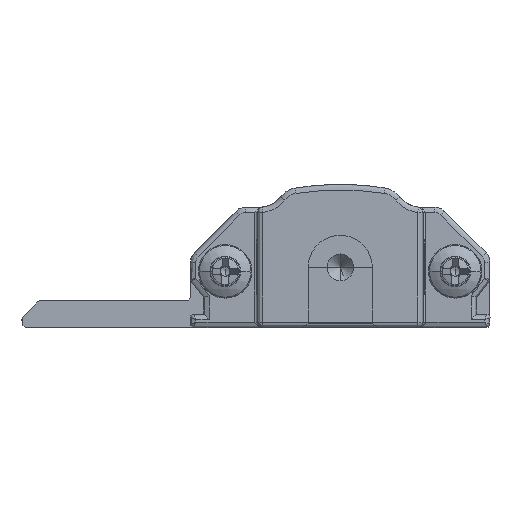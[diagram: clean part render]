
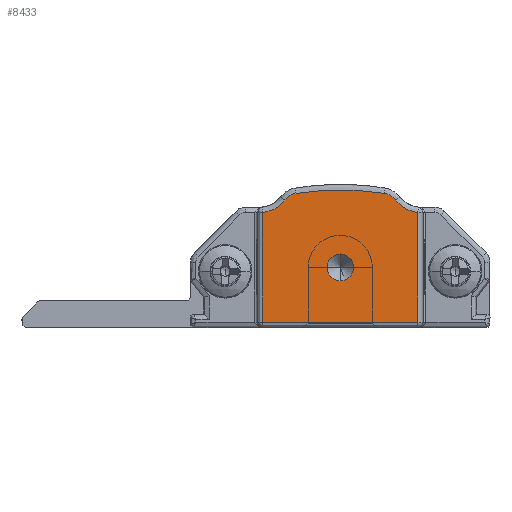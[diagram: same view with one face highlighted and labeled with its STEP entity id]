
A CAD part, front view. The second image highlights one B-rep face of the part: STEP entity #8433.
In plain terms, the highlighted planar face has unit normal (0, -1, 0).
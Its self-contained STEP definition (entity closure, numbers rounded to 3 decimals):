
#357 = AXIS2_PLACEMENT_3D ( 'NONE', #27700, #5956, #15453 ) ;
#891 = DIRECTION ( 'NONE',  ( 0., -1., 0. ) ) ;
#1274 = ORIENTED_EDGE ( 'NONE', *, *, #5611, .T. ) ;
#1951 = ORIENTED_EDGE ( 'NONE', *, *, #9960, .T. ) ;
#2082 = CARTESIAN_POINT ( 'NONE',  ( 17., -15., 0.4 ) ) ;
#2147 = ORIENTED_EDGE ( 'NONE', *, *, #29866, .T. ) ;
#2299 = VERTEX_POINT ( 'NONE', #26093 ) ;
#2312 = ORIENTED_EDGE ( 'NONE', *, *, #2401, .T. ) ;
#2401 = EDGE_CURVE ( 'NONE', #8843, #10778, #17169, .T. ) ;
#2630 = CARTESIAN_POINT ( 'NONE',  ( 17., -15., 8.612 ) ) ;
#2657 = CIRCLE ( 'NONE', #3656, 1. ) ;
#3656 = AXIS2_PLACEMENT_3D ( 'NONE', #18105, #891, #10528 ) ;
#3772 = VECTOR ( 'NONE', #26977, 1000. ) ;
#3838 = AXIS2_PLACEMENT_3D ( 'NONE', #22872, #8832, #6450 ) ;
#3845 = EDGE_LOOP ( 'NONE', ( #2312, #1274, #9513, #22999, #2147, #28946, #1951, #22047 ) ) ;
#4135 = VERTEX_POINT ( 'NONE', #14292 ) ;
#4183 = CARTESIAN_POINT ( 'NONE',  ( 5.4, -15., 0.4 ) ) ;
#4322 = EDGE_LOOP ( 'NONE', ( #29389, #19383 ) ) ;
#5347 = CIRCLE ( 'NONE', #3838, 1.3 ) ;
#5450 = LINE ( 'NONE', #19854, #23386 ) ;
#5554 = DIRECTION ( 'NONE',  ( 0., 1., 0. ) ) ;
#5611 = EDGE_CURVE ( 'NONE', #10778, #4135, #29596, .T. ) ;
#5629 = EDGE_CURVE ( 'NONE', #30280, #8843, #27280, .T. ) ;
#5956 = DIRECTION ( 'NONE',  ( 0., -1., 0. ) ) ;
#6235 = AXIS2_PLACEMENT_3D ( 'NONE', #29266, #13036, #12573 ) ;
#6450 = DIRECTION ( 'NONE',  ( 0., 0., -1. ) ) ;
#7051 = VERTEX_POINT ( 'NONE', #16747 ) ;
#7942 = DIRECTION ( 'NONE',  ( 0., 0., -1. ) ) ;
#8433 = ADVANCED_FACE ( 'NONE', ( #17759, #15397 ), #25068, .T. ) ;
#8832 = DIRECTION ( 'NONE',  ( 0., -1., 0. ) ) ;
#8843 = VERTEX_POINT ( 'NONE', #2082 ) ;
#9080 = DIRECTION ( 'NONE',  ( 0., -1., 0. ) ) ;
#9414 = CIRCLE ( 'NONE', #357, 20.676 ) ;
#9513 = ORIENTED_EDGE ( 'NONE', *, *, #23019, .T. ) ;
#9620 = CARTESIAN_POINT ( 'NONE',  ( 17., -15., 8.612 ) ) ;
#9950 = EDGE_CURVE ( 'NONE', #17959, #7051, #19336, .T. ) ;
#9960 = EDGE_CURVE ( 'NONE', #2299, #30280, #5450, .T. ) ;
#10528 = DIRECTION ( 'NONE',  ( 0., 0., -1. ) ) ;
#10778 = VERTEX_POINT ( 'NONE', #9620 ) ;
#10805 = DIRECTION ( 'NONE',  ( 0., 0., -1. ) ) ;
#10821 = DIRECTION ( 'NONE',  ( 0., 0., -1. ) ) ;
#11609 = CIRCLE ( 'NONE', #26825, 1.3 ) ;
#12276 = CIRCLE ( 'NONE', #14776, 2.4 ) ;
#12573 = DIRECTION ( 'NONE',  ( 0., 0., -1. ) ) ;
#12690 = CARTESIAN_POINT ( 'NONE',  ( 5.162, -15., 11. ) ) ;
#13036 = DIRECTION ( 'NONE',  ( 0., -1., 0. ) ) ;
#13336 = CARTESIAN_POINT ( 'NONE',  ( 22.15, -15., 3.606 ) ) ;
#14292 = CARTESIAN_POINT ( 'NONE',  ( 15.332, -15., 9.541 ) ) ;
#14776 = AXIS2_PLACEMENT_3D ( 'NONE', #12690, #5554, #10805 ) ;
#15397 = FACE_BOUND ( 'NONE', #4322, .T. ) ;
#15453 = DIRECTION ( 'NONE',  ( 0., 0., -1. ) ) ;
#16701 = CARTESIAN_POINT ( 'NONE',  ( 7.068, -15., 9.541 ) ) ;
#16747 = CARTESIAN_POINT ( 'NONE',  ( 11.2, -15., 3.5 ) ) ;
#17169 = LINE ( 'NONE', #2630, #28749 ) ;
#17759 = FACE_OUTER_BOUND ( 'NONE', #3845, .T. ) ;
#17959 = VERTEX_POINT ( 'NONE', #25002 ) ;
#18105 = CARTESIAN_POINT ( 'NONE',  ( 11.2, -15., 4.5 ) ) ;
#19336 = CIRCLE ( 'NONE', #6235, 1. ) ;
#19383 = ORIENTED_EDGE ( 'NONE', *, *, #9950, .F. ) ;
#19450 = DIRECTION ( 'NONE',  ( 0., -1., 0. ) ) ;
#19665 = CARTESIAN_POINT ( 'NONE',  ( 14.508, -15., 10.034 ) ) ;
#19680 = DIRECTION ( 'NONE',  ( 0., 0., 1. ) ) ;
#19854 = CARTESIAN_POINT ( 'NONE',  ( 5.4, -15., 0.4 ) ) ;
#19951 = CARTESIAN_POINT ( 'NONE',  ( 17., -15., 0.4 ) ) ;
#20095 = CARTESIAN_POINT ( 'NONE',  ( 17.238, -15., 11. ) ) ;
#21950 = AXIS2_PLACEMENT_3D ( 'NONE', #20095, #24703, #7942 ) ;
#22047 = ORIENTED_EDGE ( 'NONE', *, *, #5629, .T. ) ;
#22124 = CARTESIAN_POINT ( 'NONE',  ( 14.3, -15., 8.75 ) ) ;
#22675 = DIRECTION ( 'NONE',  ( 0., 0., -1. ) ) ;
#22872 = CARTESIAN_POINT ( 'NONE',  ( 8.1, -15., 8.75 ) ) ;
#22999 = ORIENTED_EDGE ( 'NONE', *, *, #29288, .T. ) ;
#23019 = EDGE_CURVE ( 'NONE', #4135, #31316, #11609, .T. ) ;
#23386 = VECTOR ( 'NONE', #22675, 1000. ) ;
#24444 = EDGE_CURVE ( 'NONE', #7051, #17959, #2657, .T. ) ;
#24703 = DIRECTION ( 'NONE',  ( 0., 1., 0. ) ) ;
#24829 = EDGE_CURVE ( 'NONE', #27412, #2299, #12276, .T. ) ;
#25002 = CARTESIAN_POINT ( 'NONE',  ( 11.2, -15., 5.5 ) ) ;
#25068 = PLANE ( 'NONE',  #28372 ) ;
#26093 = CARTESIAN_POINT ( 'NONE',  ( 5.4, -15., 8.612 ) ) ;
#26351 = CARTESIAN_POINT ( 'NONE',  ( 7.892, -15., 10.034 ) ) ;
#26795 = DIRECTION ( 'NONE',  ( 0., 0., -1. ) ) ;
#26825 = AXIS2_PLACEMENT_3D ( 'NONE', #22124, #19450, #26795 ) ;
#26977 = DIRECTION ( 'NONE',  ( 1., 0., 0. ) ) ;
#27280 = LINE ( 'NONE', #19951, #3772 ) ;
#27412 = VERTEX_POINT ( 'NONE', #16701 ) ;
#27700 = CARTESIAN_POINT ( 'NONE',  ( 11.2, -15., -10.376 ) ) ;
#28372 = AXIS2_PLACEMENT_3D ( 'NONE', #13336, #9080, #10821 ) ;
#28749 = VECTOR ( 'NONE', #19680, 1000. ) ;
#28946 = ORIENTED_EDGE ( 'NONE', *, *, #24829, .T. ) ;
#29266 = CARTESIAN_POINT ( 'NONE',  ( 11.2, -15., 4.5 ) ) ;
#29288 = EDGE_CURVE ( 'NONE', #31316, #29579, #9414, .T. ) ;
#29389 = ORIENTED_EDGE ( 'NONE', *, *, #24444, .F. ) ;
#29579 = VERTEX_POINT ( 'NONE', #26351 ) ;
#29596 = CIRCLE ( 'NONE', #21950, 2.4 ) ;
#29866 = EDGE_CURVE ( 'NONE', #29579, #27412, #5347, .T. ) ;
#30280 = VERTEX_POINT ( 'NONE', #4183 ) ;
#31316 = VERTEX_POINT ( 'NONE', #19665 ) ;
